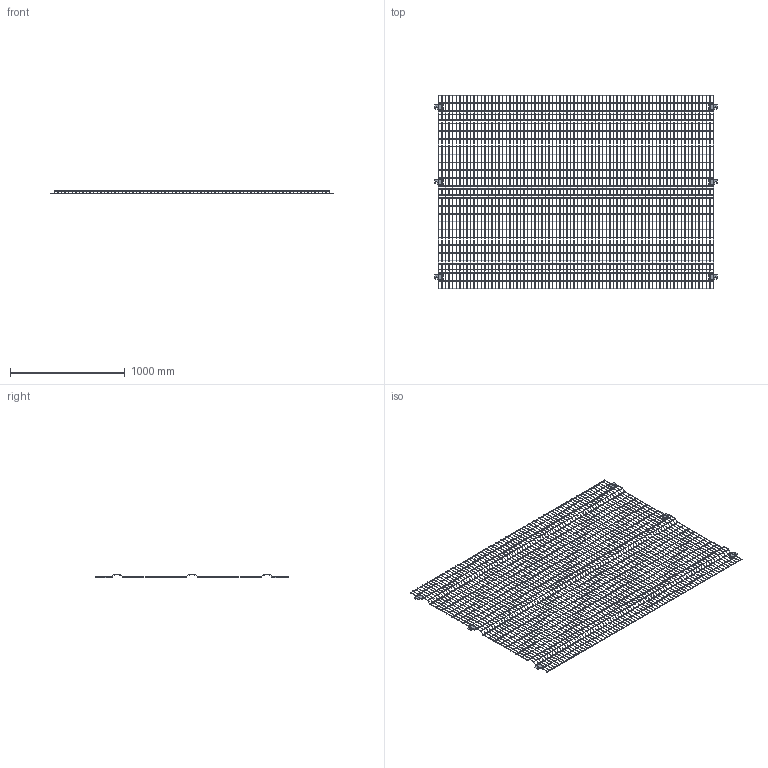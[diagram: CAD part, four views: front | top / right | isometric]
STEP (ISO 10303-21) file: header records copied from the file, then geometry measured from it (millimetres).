
FILE_DESCRIPTION (( 'STEP AP203' ), '1' );
FILE_NAME ('Frameless Panel 2400 x 1688.STEP', '2023-09-15T16:49:12', ( '' ), ( '' ), 'SwSTEP 2.0', 'SolidWorks 2023', '' );
FILE_SCHEMA (( 'CONFIG_CONTROL_DESIGN' ));
Length unit declared in the file: millimetre
Products named in the file (1): Frameless Panel 2400 x 1688
Bounding box: 2456 x 1688 x 32 mm (x, y, z)
Volume: 2682177.3 mm3; surface area: 2664577 mm2
Topology: 114 solids, 114 shells, 4272 faces, 8388 edges, 4344 vertices
Faces by surface type: cylinder 2130, torus 1872, plane 270
Entity records: 108023 total; most frequent: DIRECTION 23066, CARTESIAN_POINT 17005, ORIENTED_EDGE 16776, AXIS2_PLACEMENT_3D 10405, EDGE_CURVE 8388, CIRCLE 6132, VERTEX_POINT 4344, ADVANCED_FACE 4272
